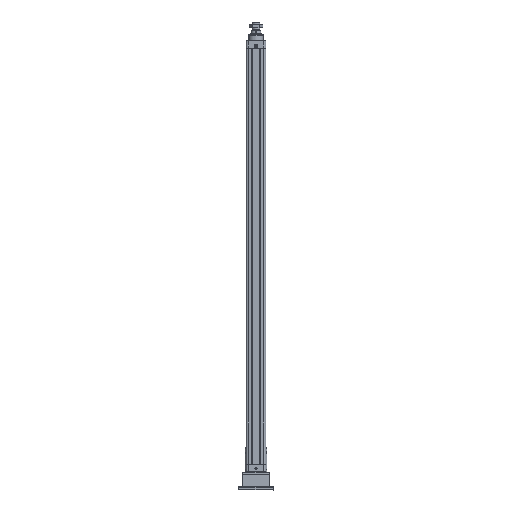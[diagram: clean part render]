
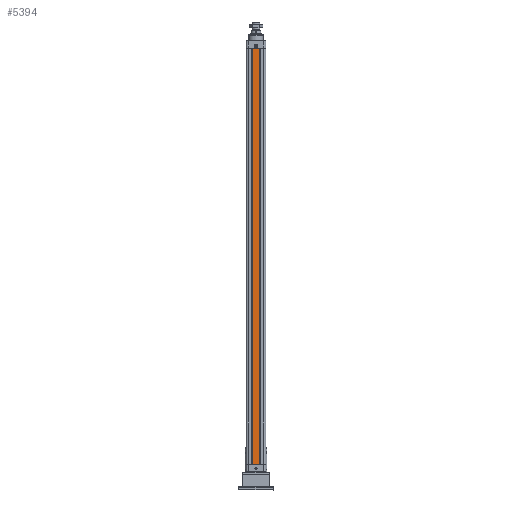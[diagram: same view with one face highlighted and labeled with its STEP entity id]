
A CAD part, top view. The second image highlights one B-rep face of the part: STEP entity #5394.
In plain terms, the highlighted planar face has unit normal (0, 0, 1).
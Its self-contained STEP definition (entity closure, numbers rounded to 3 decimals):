
#3073=DIRECTION('',(1.,0.,0.));
#3074=VECTOR('',#3073,25.8);
#3075=CARTESIAN_POINT('',(-12.9,-780.5,37.5));
#3076=LINE('',#3075,#3074);
#3453=DIRECTION('',(0.,1.,0.));
#3454=VECTOR('',#3453,1561.);
#3455=CARTESIAN_POINT('',(-12.9,-780.5,37.5));
#3456=LINE('',#3455,#3454);
#3457=DIRECTION('',(0.,1.,0.));
#3458=VECTOR('',#3457,1561.);
#3459=CARTESIAN_POINT('',(12.9,-780.5,37.5));
#3460=LINE('',#3459,#3458);
#3813=DIRECTION('',(1.,0.,0.));
#3814=VECTOR('',#3813,25.8);
#3815=CARTESIAN_POINT('',(-12.9,780.5,37.5));
#3816=LINE('',#3815,#3814);
#4997=CARTESIAN_POINT('',(-12.9,-780.5,37.5));
#4999=VERTEX_POINT('',#4997);
#5025=CARTESIAN_POINT('',(12.9,-780.5,37.5));
#5026=VERTEX_POINT('',#5025);
#5053=CARTESIAN_POINT('',(-12.9,780.5,37.5));
#5055=VERTEX_POINT('',#5053);
#5081=CARTESIAN_POINT('',(12.9,780.5,37.5));
#5082=VERTEX_POINT('',#5081);
#5380=CARTESIAN_POINT('',(-37.5,-780.5,37.5));
#5381=DIRECTION('',(0.,0.,1.));
#5382=DIRECTION('',(1.,0.,0.));
#5383=AXIS2_PLACEMENT_3D('',#5380,#5381,#5382);
#5384=PLANE('',#5383);
#5386=ORIENTED_EDGE('',*,*,#5385,.T.);
#5388=ORIENTED_EDGE('',*,*,#5387,.T.);
#5390=ORIENTED_EDGE('',*,*,#5389,.F.);
#5391=ORIENTED_EDGE('',*,*,#5132,.F.);
#5392=EDGE_LOOP('',(#5386,#5388,#5390,#5391));
#5393=FACE_OUTER_BOUND('',#5392,.F.);
#5394=ADVANCED_FACE('',(#5393),#5384,.T.);
#5132=EDGE_CURVE('',#4999,#5026,#3076,.T.);
#5385=EDGE_CURVE('',#4999,#5055,#3456,.T.);
#5387=EDGE_CURVE('',#5055,#5082,#3816,.T.);
#5389=EDGE_CURVE('',#5026,#5082,#3460,.T.);
